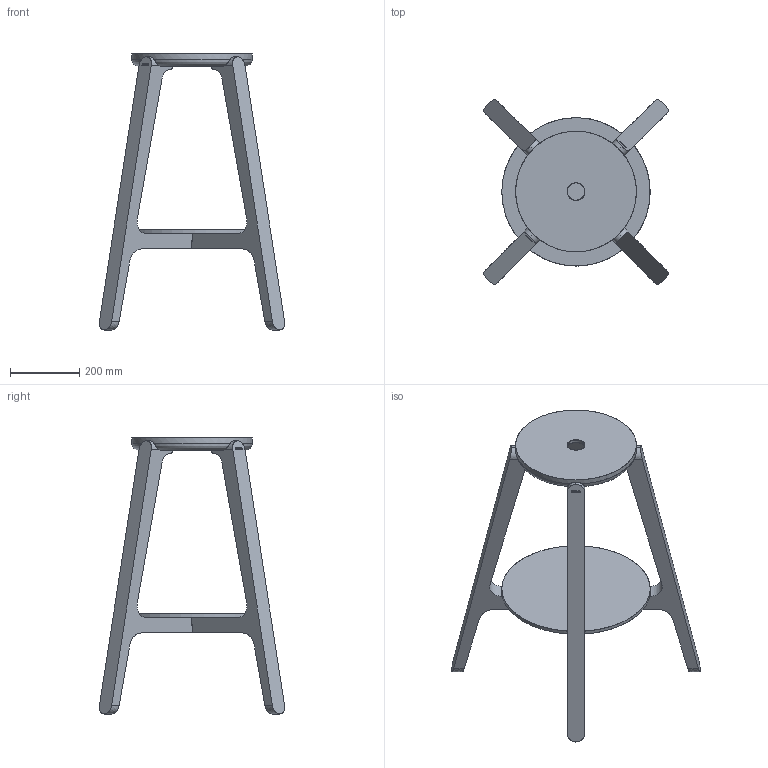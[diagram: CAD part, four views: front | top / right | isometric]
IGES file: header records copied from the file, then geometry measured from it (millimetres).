
Global section: file name: C:\Users\hp\Desktop\8268_8269_8270_8271_Halong\8268_8269_8270_8271_HALONG.igs; native system: Rhinoceros ( Mar  7 2025 ); preprocessor: Trout Lake IGES 012 Mar  7 2025; date: 250331.082306; units: millimetre
Bounding box: 537.54 x 537.54 x 800 mm (x, y, z)
Surface area: 1338142.4 mm2 (no closed solid volume)
Topology: 0 solids, 0 shells, 340 faces, 2861 edges, 2833 vertices
Faces by surface type: bspline 340
